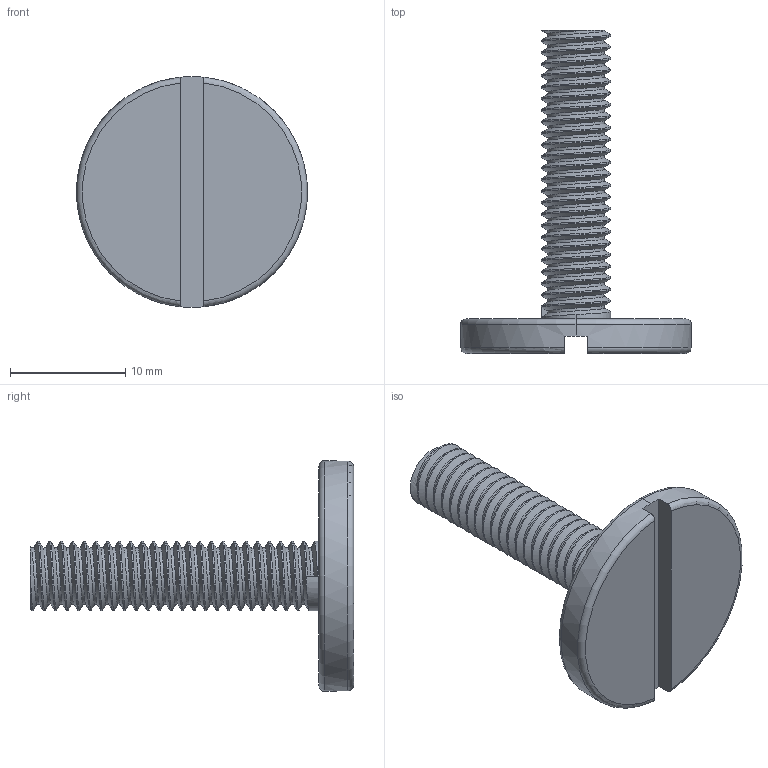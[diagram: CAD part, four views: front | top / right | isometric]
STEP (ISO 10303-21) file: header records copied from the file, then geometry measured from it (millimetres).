
FILE_DESCRIPTION (( 'STEP AP214' ), '1' );
FILE_NAME ('1.2033 Lattapääruuvi M6x25.STEP', '2025-09-26T06:13:18', ( '' ), ( '' ), 'SwSTEP 2.0', 'SolidWorks 2025', '' );
FILE_SCHEMA (( 'AUTOMOTIVE_DESIGN' ));
Length unit declared in the file: millimetre
Products named in the file (1): 1.2033 Lattapääruuvi M6x25
Bounding box: 20 x 28 x 20 mm (x, y, z)
Volume: 1453.8 mm3; surface area: 1526.4 mm2
Topology: 1 solids, 1 shells, 67 faces, 190 edges, 126 vertices
Faces by surface type: cylinder 52, plane 8, torus 4, bspline 3
Entity records: 5874 total; most frequent: CARTESIAN_POINT 4422, ORIENTED_EDGE 380, DIRECTION 228, EDGE_CURVE 190, VERTEX_POINT 126, AXIS2_PLACEMENT_3D 82, EDGE_LOOP 68, ADVANCED_FACE 67
